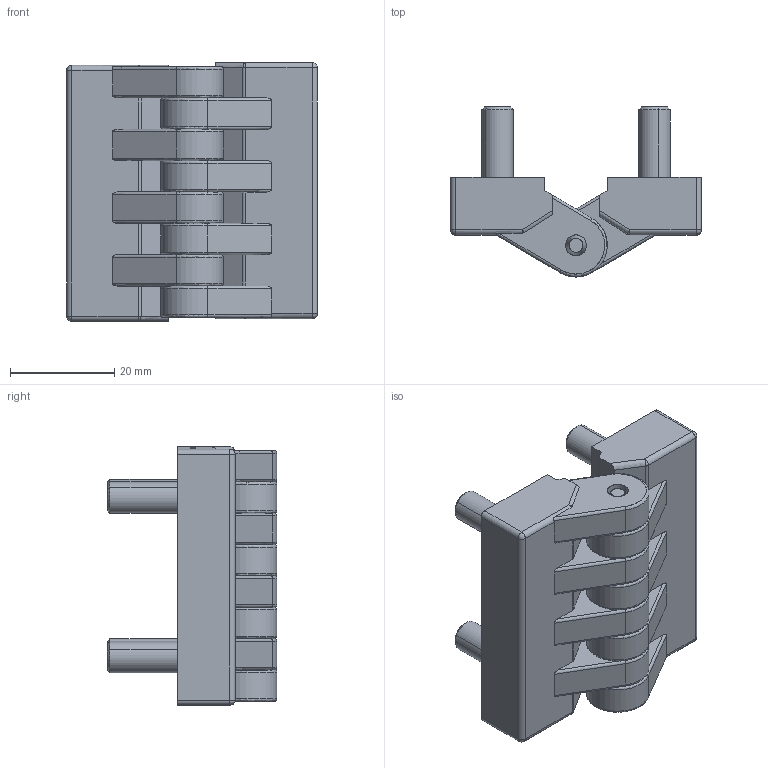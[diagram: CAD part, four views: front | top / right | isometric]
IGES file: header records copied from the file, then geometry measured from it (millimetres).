
Start section: SolidWorks IGES file using analytic representation for surfaces
Global section: file name: E:\DATA FOLDER FOR WEB-2015\'D' SECTION\IGS\DHIF-4849-SS.IGS; native system: SolidWorks 2015; preprocessor: SolidWorks 2015; author: solidworksqc; date: 151122.094037; units: millimetre
Bounding box: 48 x 32.5 x 49.5 mm (x, y, z)
Surface area: 14387.2 mm2 (no closed solid volume)
Topology: 0 solids, 0 shells, 236 faces, 2866 edges, 2858 vertices
Faces by surface type: bspline 122, revolution 114
